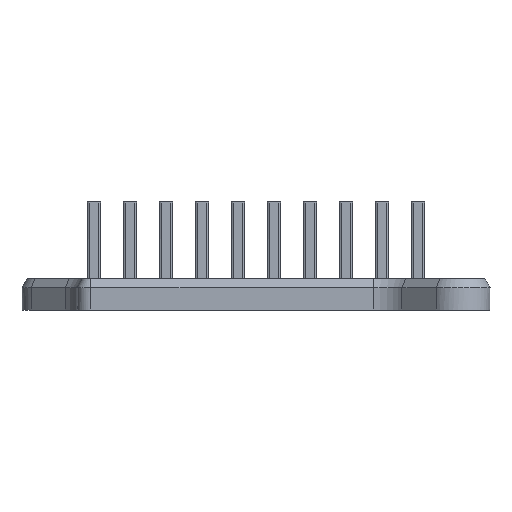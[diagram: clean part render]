
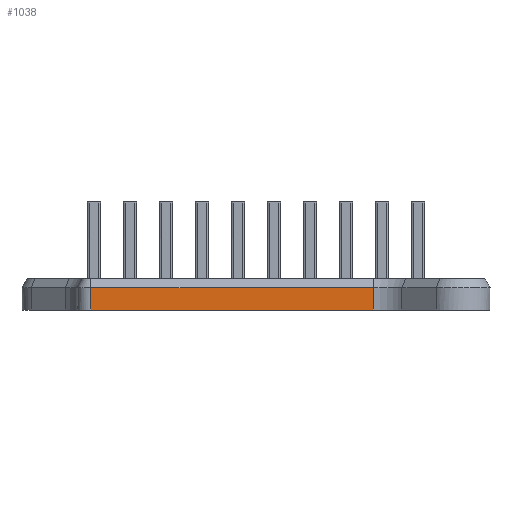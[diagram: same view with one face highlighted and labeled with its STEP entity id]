
A CAD part, left-side view. The second image highlights one B-rep face of the part: STEP entity #1038.
In plain terms, the highlighted planar face has unit normal (-1, 0, 0).
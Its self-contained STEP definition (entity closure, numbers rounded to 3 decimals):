
#1038=ADVANCED_FACE('',(#1984),#15747,.T.);
#1984=FACE_OUTER_BOUND('',#3042,.T.);
#3042=EDGE_LOOP('',(#7969,#7970,#7971,#7972));
#7969=ORIENTED_EDGE('',*,*,#10520,.T.);
#7970=ORIENTED_EDGE('',*,*,#10544,.F.);
#7971=ORIENTED_EDGE('',*,*,#10543,.F.);
#7972=ORIENTED_EDGE('',*,*,#10541,.F.);
#10520=EDGE_CURVE('',#14751,#14752,#13082,.T.);
#10541=EDGE_CURVE('',#14751,#14791,#13096,.T.);
#10543=EDGE_CURVE('',#14791,#14792,#13097,.T.);
#10544=EDGE_CURVE('',#14792,#14752,#13098,.T.);
#13082=B_SPLINE_CURVE_WITH_KNOTS('',1,(#33047,#33048),.UNSPECIFIED.,.F.,
 .F.,(2,2),(0.,31.386),.UNSPECIFIED.);
#13096=B_SPLINE_CURVE_WITH_KNOTS('',1,(#33100,#33101),.UNSPECIFIED.,.F.,
 .F.,(2,2),(-2.5,0.),.UNSPECIFIED.);
#13097=B_SPLINE_CURVE_WITH_KNOTS('',1,(#33107,#33108),.UNSPECIFIED.,.F.,
 .F.,(2,2),(0.,31.386),.UNSPECIFIED.);
#13098=B_SPLINE_CURVE_WITH_KNOTS('',1,(#33109,#33110),.UNSPECIFIED.,.F.,
 .F.,(2,2),(0.,2.5),.UNSPECIFIED.);
#14751=VERTEX_POINT('',#26557);
#14752=VERTEX_POINT('',#26558);
#14791=VERTEX_POINT('',#26597);
#14792=VERTEX_POINT('',#26598);
#15747=PLANE('',#16285);
#16285=AXIS2_PLACEMENT_3D('',#24617,#16806,$);
#16806=DIRECTION('',(-1.,0.,0.));
#24617=CARTESIAN_POINT('',(-19.85,21.489,2.75));
#26557=CARTESIAN_POINT('',(-19.85,18.35,0.));
#26558=CARTESIAN_POINT('',(-19.85,-13.036,0.));
#26597=CARTESIAN_POINT('',(-19.85,18.35,2.5));
#26598=CARTESIAN_POINT('',(-19.85,-13.036,2.5));
#33047=CARTESIAN_POINT('',(-19.85,18.35,0.));
#33048=CARTESIAN_POINT('',(-19.85,-13.036,0.));
#33100=CARTESIAN_POINT('',(-19.85,18.35,0.));
#33101=CARTESIAN_POINT('',(-19.85,18.35,2.5));
#33107=CARTESIAN_POINT('',(-19.85,18.35,2.5));
#33108=CARTESIAN_POINT('',(-19.85,-13.036,2.5));
#33109=CARTESIAN_POINT('',(-19.85,-13.036,2.5));
#33110=CARTESIAN_POINT('',(-19.85,-13.036,0.));
